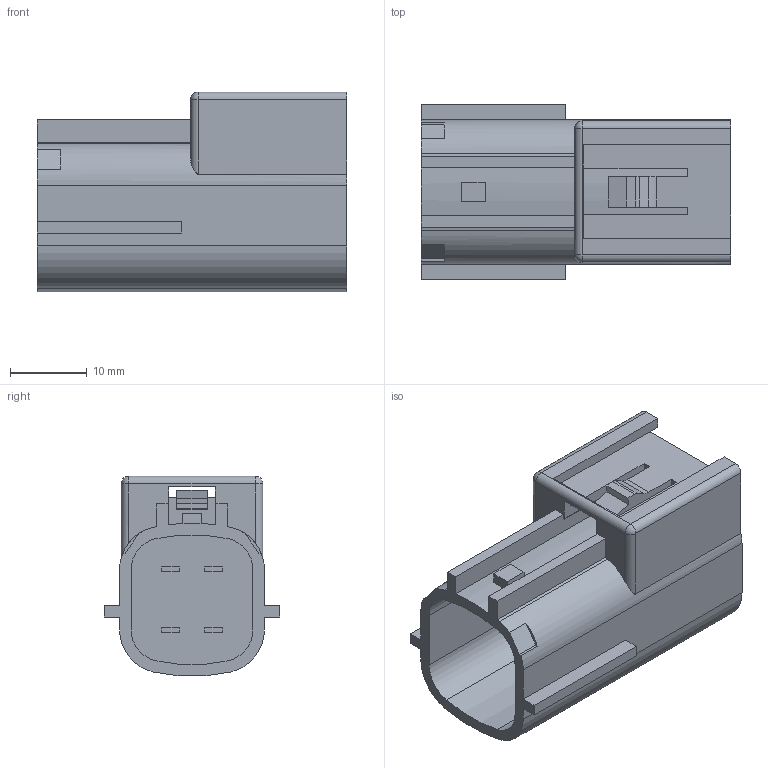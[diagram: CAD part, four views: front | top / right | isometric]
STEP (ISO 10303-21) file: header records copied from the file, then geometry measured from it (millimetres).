
FILE_DESCRIPTION(('CATIA V5 STEP Exchange'),'2;1');
FILE_NAME('N:\C-DAM_MyDesk\ENV\900093\6181-0513.stp','2013-10-01T00:01:04+00:00',('none'),('none'),'CATIA Version 5 Release 20 SP 4 (IN-10)','CATIA V5 STEP AP203','none');
FILE_SCHEMA(('CONFIG_CONTROL_DESIGN'));
Length unit declared in the file: millimetre
Products named in the file (1): 6181-0513
Bounding box: 40.2 x 22.8 x 25.94 mm (x, y, z)
Volume: 11200.3 mm3; surface area: 5818.5 mm2
Topology: 1 solids, 1 shells, 114 faces, 308 edges, 202 vertices
Faces by surface type: plane 83, cylinder 28, sphere 2, bspline 1
Entity records: 3453 total; most frequent: CARTESIAN_POINT 647, ORIENTED_EDGE 612, DIRECTION 484, EDGE_CURVE 306, VECTOR 240, LINE 240, VERTEX_POINT 202, AXIS2_PLACEMENT_3D 154
